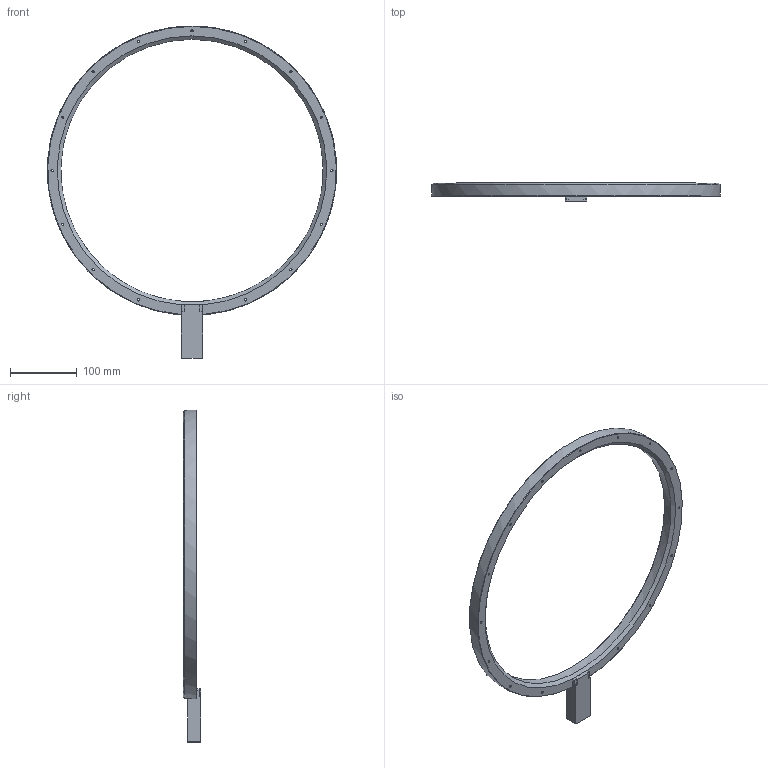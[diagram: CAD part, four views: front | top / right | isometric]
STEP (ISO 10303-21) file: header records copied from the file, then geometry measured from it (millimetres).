
FILE_DESCRIPTION (( 'STEP AP214' ), '1' );
FILE_NAME ('LR_420-50-APTD-02.STEP', '2026-02-04T06:25:42', ( '' ), ( '' ), 'SwSTEP 2.0', 'SolidWorks 2022', '' );
FILE_SCHEMA (( 'AUTOMOTIVE_DESIGN' ));
Length unit declared in the file: millimetre
Products named in the file (1): LR_420-50-APTD-02
Bounding box: 433.92 x 26.5 x 498.32 mm (x, y, z)
Volume: 540611.7 mm3; surface area: 108466.2 mm2
Topology: 1 solids, 1 shells, 189 faces, 488 edges, 320 vertices
Faces by surface type: plane 146, cylinder 31, cone 8, torus 4
Full cylindrical faces by diameter (mm): 3.3 x15, 394.225 x1
Entity records: 6933 total; most frequent: CARTESIAN_POINT 1076, ORIENTED_EDGE 938, DIRECTION 918, EDGE_CURVE 469, VECTOR 388, LINE 388, VERTEX_POINT 319, AXIS2_PLACEMENT_3D 265
